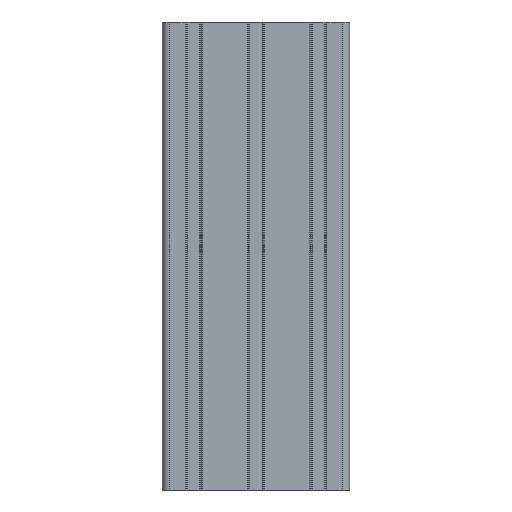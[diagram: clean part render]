
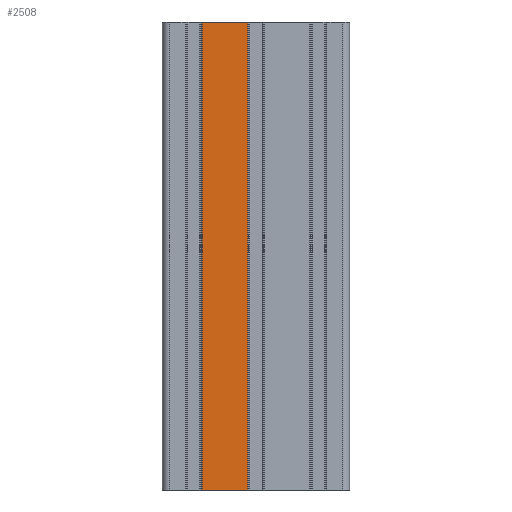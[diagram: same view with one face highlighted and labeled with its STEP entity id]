
A CAD part, front view. The second image highlights one B-rep face of the part: STEP entity #2508.
In plain terms, the highlighted planar face has unit normal (0, -1, 0).
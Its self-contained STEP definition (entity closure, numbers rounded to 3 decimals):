
#96 = VERTEX_POINT ( 'NONE', #8008 ) ;
#215 = CARTESIAN_POINT ( 'NONE',  ( -5.4, -20., 150. ) ) ;
#216 = DIRECTION ( 'NONE',  ( 0., 0., 1. ) ) ;
#344 = AXIS2_PLACEMENT_3D ( 'NONE', #2913, #1553, #216 ) ;
#496 = CARTESIAN_POINT ( 'NONE',  ( -34.6, -20., 150. ) ) ;
#596 = DIRECTION ( 'NONE',  ( 0., 0., -1. ) ) ;
#1449 = EDGE_LOOP ( 'NONE', ( #9348, #9151, #8992, #12904 ) ) ;
#1552 = LINE ( 'NONE', #215, #1920 ) ;
#1553 = DIRECTION ( 'NONE',  ( 0., 1., 0. ) ) ;
#1920 = VECTOR ( 'NONE', #11998, 1000. ) ;
#1954 = CARTESIAN_POINT ( 'NONE',  ( -34.6, -20., 150. ) ) ;
#2508 = ADVANCED_FACE ( 'NONE', ( #5537 ), #4267, .F. ) ;
#2805 = VECTOR ( 'NONE', #12274, 1000. ) ;
#2913 = CARTESIAN_POINT ( 'NONE',  ( -34.6, -20., 150. ) ) ;
#3095 = VERTEX_POINT ( 'NONE', #10663 ) ;
#3249 = VERTEX_POINT ( 'NONE', #6110 ) ;
#3295 = LINE ( 'NONE', #1954, #7448 ) ;
#4267 = PLANE ( 'NONE',  #344 ) ;
#5292 = EDGE_CURVE ( 'NONE', #96, #10164, #11256, .T. ) ;
#5537 = FACE_OUTER_BOUND ( 'NONE', #1449, .T. ) ;
#6110 = CARTESIAN_POINT ( 'NONE',  ( -34.6, -20., 150. ) ) ;
#7241 = DIRECTION ( 'NONE',  ( 1., 0., 0. ) ) ;
#7254 = LINE ( 'NONE', #496, #2805 ) ;
#7405 = EDGE_CURVE ( 'NONE', #3249, #3095, #7254, .T. ) ;
#7448 = VECTOR ( 'NONE', #596, 1000. ) ;
#8008 = CARTESIAN_POINT ( 'NONE',  ( -34.6, -20., -150. ) ) ;
#8568 = CARTESIAN_POINT ( 'NONE',  ( -34.6, -20., -150. ) ) ;
#8992 = ORIENTED_EDGE ( 'NONE', *, *, #7405, .F. ) ;
#9151 = ORIENTED_EDGE ( 'NONE', *, *, #11773, .F. ) ;
#9223 = CARTESIAN_POINT ( 'NONE',  ( -5.4, -20., -150. ) ) ;
#9348 = ORIENTED_EDGE ( 'NONE', *, *, #5292, .T. ) ;
#10164 = VERTEX_POINT ( 'NONE', #9223 ) ;
#10663 = CARTESIAN_POINT ( 'NONE',  ( -5.4, -20., 150. ) ) ;
#11256 = LINE ( 'NONE', #8568, #11719 ) ;
#11719 = VECTOR ( 'NONE', #7241, 1000. ) ;
#11773 = EDGE_CURVE ( 'NONE', #3095, #10164, #1552, .T. ) ;
#11998 = DIRECTION ( 'NONE',  ( 0., 0., -1. ) ) ;
#12274 = DIRECTION ( 'NONE',  ( 1., 0., 0. ) ) ;
#12822 = EDGE_CURVE ( 'NONE', #3249, #96, #3295, .T. ) ;
#12904 = ORIENTED_EDGE ( 'NONE', *, *, #12822, .T. ) ;
